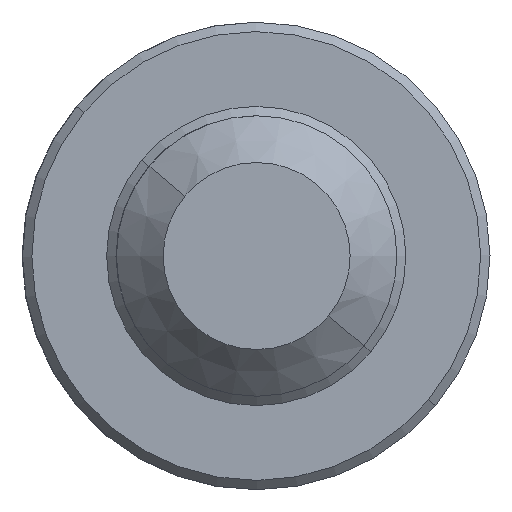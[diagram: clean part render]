
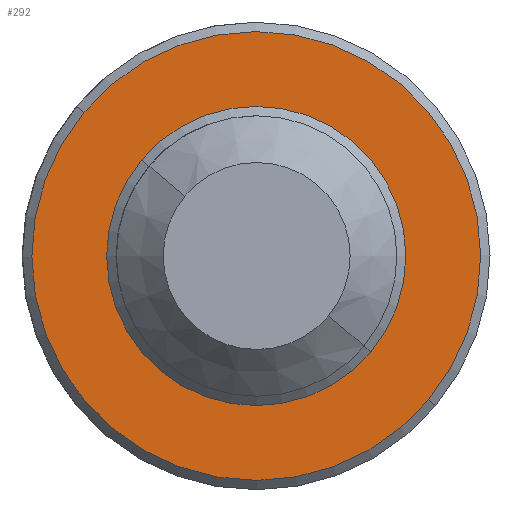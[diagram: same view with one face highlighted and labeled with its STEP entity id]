
A CAD part, front view. The second image highlights one B-rep face of the part: STEP entity #292.
In plain terms, the highlighted planar face has unit normal (0.001, -1, 0).
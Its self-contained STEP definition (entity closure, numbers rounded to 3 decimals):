
#230=DIRECTION('Axis2P3D Direction',(-0.001,1.,0.)) ;
#254=DIRECTION('Axis2P3D Direction',(-0.001,1.,0.)) ;
#266=DIRECTION('Axis2P3D Direction',(-0.001,1.,0.)) ;
#267=DIRECTION('Axis2P3D XDirection',(1.,0.001,0.)) ;
#275=DIRECTION('Axis2P3D Direction',(-0.001,1.,0.)) ;
#284=DIRECTION('Axis2P3D Direction',(-0.001,1.,0.)) ;
#226=CARTESIAN_POINT('Vertex',(1042.328,-666.608,273.81)) ;
#229=CARTESIAN_POINT('Axis2P3D Location',(1046.013,-666.605,270.734)) ;
#233=CARTESIAN_POINT('Vertex',(1049.697,-666.602,267.657)) ;
#253=CARTESIAN_POINT('Axis2P3D Location',(1046.013,-666.605,270.734)) ;
#265=CARTESIAN_POINT('Axis2P3D Location',(1050.917,-666.601,269.762)) ;
#274=CARTESIAN_POINT('Axis2P3D Location',(1046.013,-666.605,270.734)) ;
#278=CARTESIAN_POINT('Vertex',(1043.556,-666.607,272.784)) ;
#280=CARTESIAN_POINT('Vertex',(1048.469,-666.603,268.683)) ;
#283=CARTESIAN_POINT('Axis2P3D Location',(1046.013,-666.605,270.734)) ;
#231=AXIS2_PLACEMENT_3D('Circle Axis2P3D',#229,#230,$) ;
#255=AXIS2_PLACEMENT_3D('Circle Axis2P3D',#253,#254,$) ;
#268=AXIS2_PLACEMENT_3D('Plane Axis2P3D',#265,#266,#267) ;
#276=AXIS2_PLACEMENT_3D('Circle Axis2P3D',#274,#275,$) ;
#285=AXIS2_PLACEMENT_3D('Circle Axis2P3D',#283,#284,$) ;
#291=FACE_BOUND('',#288,.T.) ;
#235=EDGE_CURVE('',#227,#234,#232,.T.) ;
#257=EDGE_CURVE('',#234,#227,#256,.T.) ;
#282=EDGE_CURVE('',#279,#281,#277,.F.) ;
#287=EDGE_CURVE('',#281,#279,#286,.F.) ;
#269=PLANE('Plane',#268) ;
#271=ORIENTED_EDGE('',*,*,#257,.F.) ;
#272=ORIENTED_EDGE('',*,*,#235,.F.) ;
#289=ORIENTED_EDGE('',*,*,#282,.F.) ;
#290=ORIENTED_EDGE('',*,*,#287,.F.) ;
#292=ADVANCED_FACE('\X2\96F64EF6672C4F53FF08672A94C663A5FF09\X0\',(#273,#291),#269,.F.) ;
#232=CIRCLE('generated circle',#231,4.8) ;
#256=CIRCLE('generated circle',#255,4.8) ;
#277=CIRCLE('generated circle',#276,3.2) ;
#286=CIRCLE('generated circle',#285,3.2) ;
#227=VERTEX_POINT('',#226) ;
#234=VERTEX_POINT('',#233) ;
#279=VERTEX_POINT('',#278) ;
#281=VERTEX_POINT('',#280) ;
#270=EDGE_LOOP('',(#271,#272)) ;
#288=EDGE_LOOP('',(#289,#290)) ;
#273=FACE_OUTER_BOUND('',#270,.T.) ;
